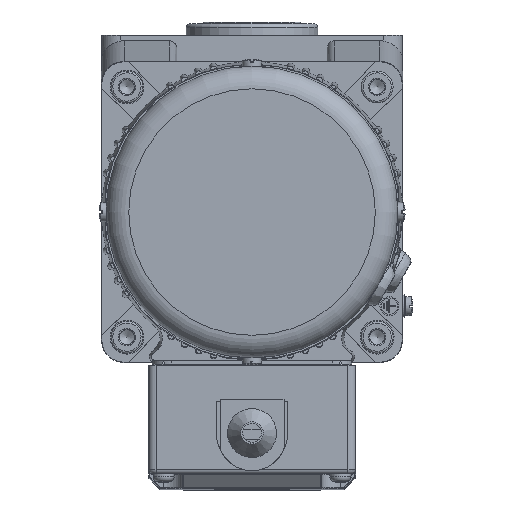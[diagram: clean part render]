
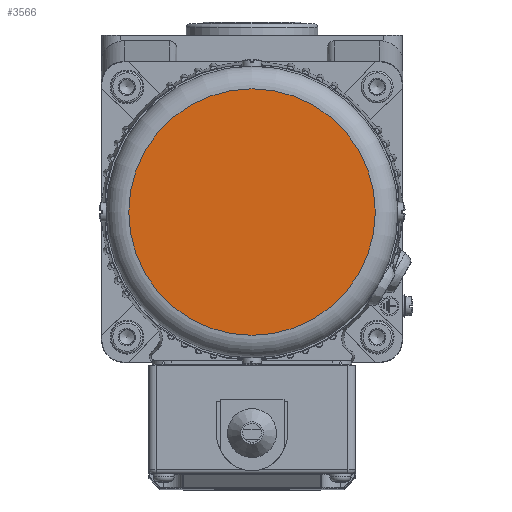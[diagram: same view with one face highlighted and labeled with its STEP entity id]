
A CAD part, left-side view. The second image highlights one B-rep face of the part: STEP entity #3566.
In plain terms, the highlighted planar face has unit normal (-1, 0, 0).
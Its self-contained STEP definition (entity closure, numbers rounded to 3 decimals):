
#3566=ADVANCED_FACE('',(#6030),#4984,.F.);
#4984=PLANE('',#30036);
#6030=FACE_OUTER_BOUND('',#7651,.T.);
#7651=EDGE_LOOP('',(#12403));
#12403=ORIENTED_EDGE('',*,*,#21527,.F.);
#18260=VERTEX_POINT('',#43383);
#21527=EDGE_CURVE('',#18260,#18260,#27971,.T.);
#27971=CIRCLE('',#30035,32.75);
#30035=AXIS2_PLACEMENT_3D('',#43382,#35249,#35250);
#30036=AXIS2_PLACEMENT_3D('',#43384,#35251,#35252);
#35249=DIRECTION('',(1.,0.,0.));
#35250=DIRECTION('',(0.,0.,-1.));
#35251=DIRECTION('',(1.,0.,0.));
#35252=DIRECTION('',(0.,0.,-1.));
#43382=CARTESIAN_POINT('',(-132.,40.,40.));
#43383=CARTESIAN_POINT('',(-132.,40.,7.25));
#43384=CARTESIAN_POINT('',(-132.,40.,40.));
